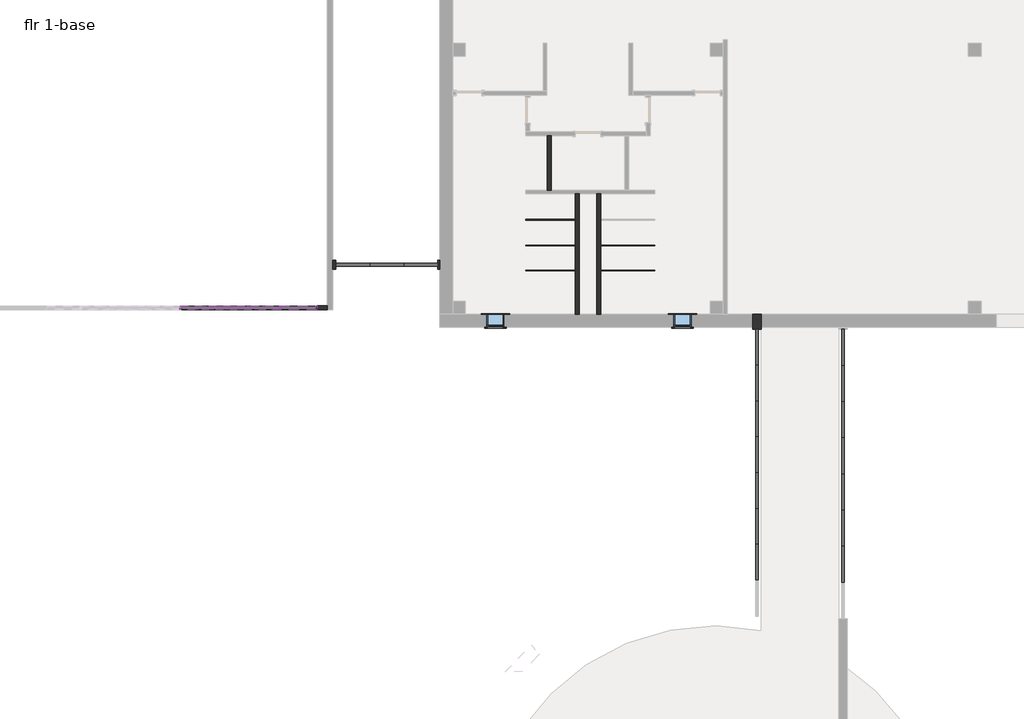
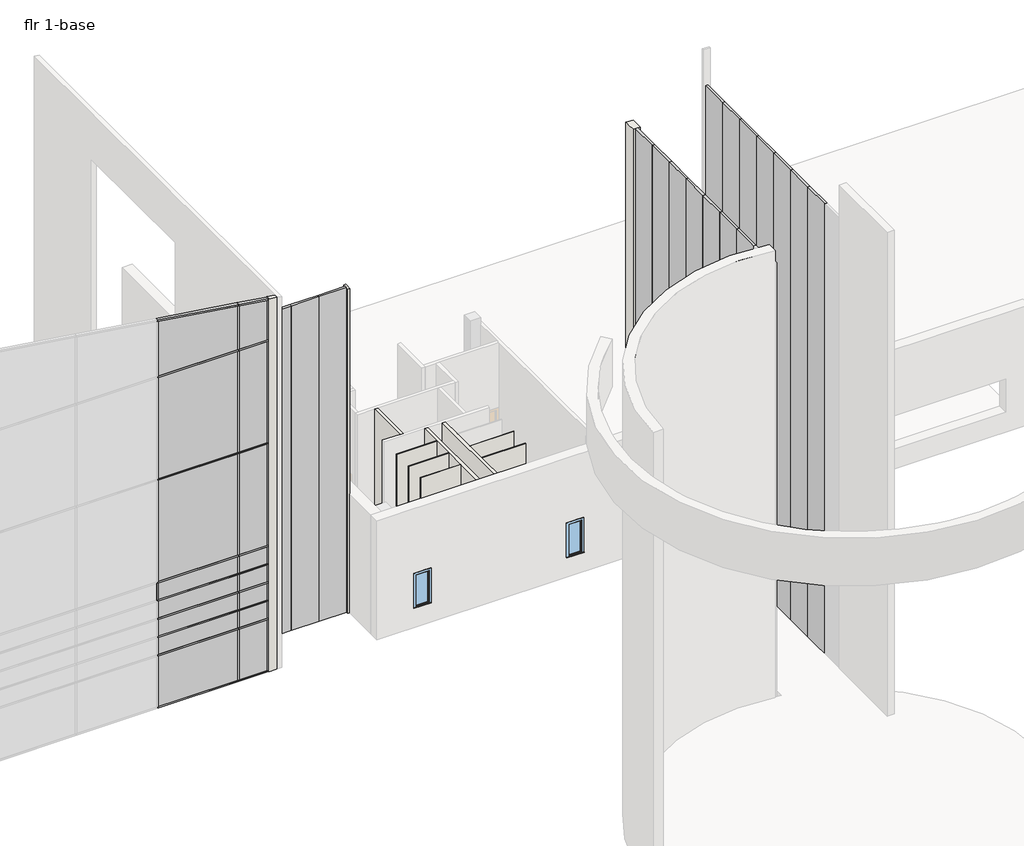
# One storey, part 3 of 5: 35 members, 33 plates, 12 walls, 2 windows.
"""IFC4 building model written with IfcOpenShell, lengths in millimetres."""

from ifc_helpers import new_model, si_unit, frame, origin, origin_with_axes, place, context, project, spatial, polyline, outline, extrude, faceted_brep, transform, mapped, element, save
from components import system_panel_system_panel_63a5b8b7, system_panel_system_panel_2d25a60f, system_panel_system_panel_03cabf1d, system_panel_system_panel_86e66b7d, system_panel_system_panel_499e53ce, system_panel_system_panel_bb7de7ef, system_panel_system_panel_081f42b0, system_panel_system_panel_b373457a, system_panel_system_panel_dbd73a4f, system_panel_system_panel_1b25f975, system_panel_system_panel_68fa3782, fixed_2_x5_0ba76afd

model = new_model("IFC4")

# Units and contexts
model_context = context("Model", 3, world=origin())
ifc_project = project(units=[si_unit("LENGTHUNIT", "METRE", prefix="MILLI")], contexts=[model_context])

# Site, building, storey
site = spatial("IfcSite", under=ifc_project)
building = spatial("IfcBuilding", under=site)
storey = spatial("IfcBuildingStorey", under=building, Name="flr 1-base", Elevation=0.0)

# Members
placement = place(None, origin())
element("IfcMember", 1, ObjectType="Rectangular Mullion : 2.5\" x 5\" rectangular", at=placement, inside=storey, context=model_context, shape_type="SweptSolid", body=[
    extrude(outline(polyline([(-120352.490902, 25250.9071029), (-120415.990902, 25250.9071029), (-120415.990902, 25377.9071029), (-120352.490902, 25377.9071029), (-120352.490902, 25250.9071029)])), frame((0.0, 0.0, -241.3), z_axis=(0.0, 0.0, 1.0), x_axis=(1.0, 0.0, 0.0)), (0.0, 0.0, 1.0), 2343.15),
])
element("IfcMember", 2, ObjectType="Rectangular Mullion : 2.5\" x 5\" rectangular", at=placement, inside=storey, context=model_context, shape_type="SweptSolid", body=[
    extrude(outline(polyline([(16798.9134278, -120415.990902), (16853.7871072, -120352.490902), (17046.0825681, -121664.8602916), (16983.2534474, -121674.0663542), (16798.9134278, -120415.990902)])), frame((0.0, 25250.9071029, 0.0), z_axis=(0.0, 1.0, 0.0), x_axis=(0.0, 0.0, 1.0)), (0.0, 0.0, 1.0), 127.0),
])
element("IfcMember", 3, ObjectType="Rectangular Mullion : 2.5\" x 5\" rectangular", at=placement, inside=storey, context=model_context, shape_type="SweptSolid", body=[
    extrude(outline(polyline([(-121633.1102916, 25250.9071029), (-121696.6102916, 25250.9071029), (-121696.6102916, 25377.9071029), (-121633.1102916, 25377.9071029), (-121633.1102916, 25250.9071029)])), frame((0.0, 0.0, -241.3), z_axis=(0.0, 0.0, 1.0), x_axis=(1.0, 0.0, 0.0)), (0.0, 0.0, 1.0), 2343.15),
])
element("IfcMember", 4, ObjectType="Rectangular Mullion : 2.5\" x 5\" rectangular", at=placement, inside=storey, context=model_context, shape_type="SweptSolid", body=[
    extrude(outline(polyline([(-120352.490902, 25377.9071029), (-120352.490902, 25250.9071029), (-121664.8602916, 25250.9071029), (-121664.8602916, 25377.9071029), (-120352.490902, 25377.9071029)])), frame((0.0, 0.0, 2101.85), z_axis=(0.0, 0.0, 1.0), x_axis=(1.0, 0.0, 0.0)), (0.0, 0.0, 1.0), 63.5),
])
element("IfcMember", 5, ObjectType="Rectangular Mullion : 2.5\" x 5\" rectangular", at=placement, inside=storey, context=model_context, shape_type="SweptSolid", body=[
    extrude(outline(polyline([(-121664.8602916, 25377.9071029), (-121664.8602916, 25250.9071029), (-125199.6755968, 25250.9071029), (-125199.6755968, 25377.9071029), (-121664.8602916, 25377.9071029)])), frame((0.0, 0.0, 2101.85), z_axis=(0.0, 0.0, 1.0), x_axis=(1.0, 0.0, 0.0)), (0.0, 0.0, 1.0), 63.5),
])
element("IfcMember", 6, ObjectType="Rectangular Mullion : 2.5\" x 5\" rectangular", at=placement, inside=storey, context=model_context, shape_type="SweptSolid", body=[
    extrude(outline(polyline([(-120352.490902, 25377.9071029), (-120352.490902, 25250.9071029), (-121664.8602916, 25250.9071029), (-121664.8602916, 25377.9071029), (-120352.490902, 25377.9071029)])), frame((0.0, 0.0, 5454.65), z_axis=(0.0, 0.0, 1.0), x_axis=(1.0, 0.0, 0.0)), (0.0, 0.0, 1.0), 63.5),
])
element("IfcMember", 7, ObjectType="Rectangular Mullion : 2.5\" x 5\" rectangular", at=placement, inside=storey, context=model_context, shape_type="SweptSolid", body=[
    extrude(outline(polyline([(-121664.8602916, 25377.9071029), (-121664.8602916, 25250.9071029), (-125199.6755968, 25250.9071029), (-125199.6755968, 25377.9071029), (-121664.8602916, 25377.9071029)])), frame((0.0, 0.0, 5454.65), z_axis=(0.0, 0.0, 1.0), x_axis=(1.0, 0.0, 0.0)), (0.0, 0.0, 1.0), 63.5),
])
element("IfcMember", 8, ObjectType="Rectangular Mullion : 2.5\" x 5\" rectangular", at=placement, inside=storey, context=model_context, shape_type="SweptSolid", body=[
    extrude(outline(polyline([(-120352.490902, 25377.9071029), (-120352.490902, 25250.9071029), (-121664.8602916, 25250.9071029), (-121664.8602916, 25377.9071029), (-120352.490902, 25377.9071029)])), frame((0.0, 0.0, 10179.05), z_axis=(0.0, 0.0, 1.0), x_axis=(1.0, 0.0, 0.0)), (0.0, 0.0, 1.0), 63.5),
])
element("IfcMember", 9, ObjectType="Rectangular Mullion : 2.5\" x 5\" rectangular", at=placement, inside=storey, context=model_context, shape_type="SweptSolid", body=[
    extrude(outline(polyline([(-121664.8602916, 25377.9071029), (-121664.8602916, 25250.9071029), (-125199.6755968, 25250.9071029), (-125199.6755968, 25377.9071029), (-121664.8602916, 25377.9071029)])), frame((0.0, 0.0, 10179.05), z_axis=(0.0, 0.0, 1.0), x_axis=(1.0, 0.0, 0.0)), (0.0, 0.0, 1.0), 63.5),
])
element("IfcMember", 10, ObjectType="Rectangular Mullion : 2.5\" x 5\" rectangular", at=placement, inside=storey, context=model_context, shape_type="SweptSolid", body=[
    extrude(outline(polyline([(-120352.490902, 25377.9071029), (-120352.490902, 25250.9071029), (-121664.8602916, 25250.9071029), (-121664.8602916, 25377.9071029), (-120352.490902, 25377.9071029)])), frame((0.0, 0.0, 14903.45), z_axis=(0.0, 0.0, 1.0), x_axis=(1.0, 0.0, 0.0)), (0.0, 0.0, 1.0), 63.5),
])
element("IfcMember", 11, ObjectType="Rectangular Mullion : 2.5\" x 5\" rectangular", at=placement, inside=storey, context=model_context, shape_type="SweptSolid", body=[
    extrude(outline(polyline([(-121664.8602916, 25377.9071029), (-121664.8602916, 25250.9071029), (-125199.6755968, 25250.9071029), (-125199.6755968, 25377.9071029), (-121664.8602916, 25377.9071029)])), frame((0.0, 0.0, 14903.45), z_axis=(0.0, 0.0, 1.0), x_axis=(1.0, 0.0, 0.0)), (0.0, 0.0, 1.0), 63.5),
])
element("IfcMember", 12, ObjectType="Rectangular Mullion : 2.5\" x 5\" rectangular", at=placement, inside=storey, context=model_context, shape_type="SweptSolid", body=[
    extrude(outline(polyline([(-120352.490902, 25377.9071029), (-120352.490902, 25250.9071029), (-121664.8602916, 25250.9071029), (-121664.8602916, 25377.9071029), (-120352.490902, 25377.9071029)])), frame((0.0, 0.0, 3778.25), z_axis=(0.0, 0.0, 1.0), x_axis=(1.0, 0.0, 0.0)), (0.0, 0.0, 1.0), 63.5),
])
element("IfcMember", 13, ObjectType="Rectangular Mullion : 2.5\" x 5\" rectangular", at=placement, inside=storey, context=model_context, shape_type="SweptSolid", body=[
    extrude(outline(polyline([(-121664.8602916, 25377.9071029), (-121664.8602916, 25250.9071029), (-125199.6755968, 25250.9071029), (-125199.6755968, 25377.9071029), (-121664.8602916, 25377.9071029)])), frame((0.0, 0.0, 3778.25), z_axis=(0.0, 0.0, 1.0), x_axis=(1.0, 0.0, 0.0)), (0.0, 0.0, 1.0), 63.5),
])
element("IfcMember", 14, ObjectType="Rectangular Mullion : 2.5\" x 5\" rectangular", at=placement, inside=storey, context=model_context, shape_type="SweptSolid", body=[
    extrude(outline(polyline([(-120352.490902, 25377.9071029), (-120352.490902, 25250.9071029), (-121664.8602916, 25250.9071029), (-121664.8602916, 25377.9071029), (-120352.490902, 25377.9071029)])), frame((0.0, 0.0, 2940.05), z_axis=(0.0, 0.0, 1.0), x_axis=(1.0, 0.0, 0.0)), (0.0, 0.0, 1.0), 63.5),
])
element("IfcMember", 15, ObjectType="Rectangular Mullion : 2.5\" x 5\" rectangular", at=placement, inside=storey, context=model_context, shape_type="SweptSolid", body=[
    extrude(outline(polyline([(-121664.8602916, 25377.9071029), (-121664.8602916, 25250.9071029), (-125199.6755968, 25250.9071029), (-125199.6755968, 25377.9071029), (-121664.8602916, 25377.9071029)])), frame((0.0, 0.0, 2940.05), z_axis=(0.0, 0.0, 1.0), x_axis=(1.0, 0.0, 0.0)), (0.0, 0.0, 1.0), 63.5),
])
element("IfcMember", 16, ObjectType="Rectangular Mullion : 2.5\" x 5\" rectangular", at=placement, inside=storey, context=model_context, shape_type="SweptSolid", body=[
    extrude(outline(polyline([(-120352.490902, 25377.9071029), (-120352.490902, 25250.9071029), (-121664.8602916, 25250.9071029), (-121664.8602916, 25377.9071029), (-120352.490902, 25377.9071029)])), frame((0.0, 0.0, 4616.45), z_axis=(0.0, 0.0, 1.0), x_axis=(1.0, 0.0, 0.0)), (0.0, 0.0, 1.0), 63.5),
])
element("IfcMember", 17, ObjectType="Rectangular Mullion : 2.5\" x 5\" rectangular", at=placement, inside=storey, context=model_context, shape_type="SweptSolid", body=[
    extrude(outline(polyline([(-121664.8602916, 25377.9071029), (-121664.8602916, 25250.9071029), (-125199.6755968, 25250.9071029), (-125199.6755968, 25377.9071029), (-121664.8602916, 25377.9071029)])), frame((0.0, 0.0, 4616.45), z_axis=(0.0, 0.0, 1.0), x_axis=(1.0, 0.0, 0.0)), (0.0, 0.0, 1.0), 63.5),
])
element("IfcMember", 18, ObjectType="Rectangular Mullion : 2.5\" x 5\" rectangular", at=placement, inside=storey, context=model_context, shape_type="SweptSolid", body=[
    extrude(outline(polyline([(-121664.8602916, 25250.9071029), (-121664.8602916, 25377.9071029), (-120352.490902, 25377.9071029), (-120352.490902, 25250.9071029), (-121664.8602916, 25250.9071029)])), frame((0.0, 0.0, -304.8), z_axis=(0.0, 0.0, 1.0), x_axis=(1.0, 0.0, 0.0)), (0.0, 0.0, 1.0), 63.5),
])
element("IfcMember", 19, ObjectType="Rectangular Mullion : 2.5\" x 5\" rectangular", at=placement, inside=storey, context=model_context, shape_type="SweptSolid", body=[
    extrude(outline(polyline([(-125199.6755968, 25250.9071029), (-125199.6755968, 25377.9071029), (-121664.8602916, 25377.9071029), (-121664.8602916, 25250.9071029), (-125199.6755968, 25250.9071029)])), frame((0.0, 0.0, -304.8), z_axis=(0.0, 0.0, 1.0), x_axis=(1.0, 0.0, 0.0)), (0.0, 0.0, 1.0), 63.5),
])
element("IfcMember", 20, ObjectType="Rectangular Mullion : 2.5\" x 5\" rectangular", at=placement, inside=storey, context=model_context, shape_type="SweptSolid", body=[
    extrude(outline(polyline([(-120352.490902, 25250.9071029), (-120415.990902, 25250.9071029), (-120415.990902, 25377.9071029), (-120352.490902, 25377.9071029), (-120352.490902, 25250.9071029)])), frame((0.0, 0.0, 2165.35), z_axis=(0.0, 0.0, 1.0), x_axis=(1.0, 0.0, 0.0)), (0.0, 0.0, 1.0), 774.7),
])
element("IfcMember", 21, ObjectType="Rectangular Mullion : 2.5\" x 5\" rectangular", at=placement, inside=storey, context=model_context, shape_type="SweptSolid", body=[
    extrude(outline(polyline([(-120352.490902, 25250.9071029), (-120415.990902, 25250.9071029), (-120415.990902, 25377.9071029), (-120352.490902, 25377.9071029), (-120352.490902, 25250.9071029)])), frame((0.0, 0.0, 5518.15), z_axis=(0.0, 0.0, 1.0), x_axis=(1.0, 0.0, 0.0)), (0.0, 0.0, 1.0), 4660.9),
])
element("IfcMember", 22, ObjectType="Rectangular Mullion : 2.5\" x 5\" rectangular", at=placement, inside=storey, context=model_context, shape_type="SweptSolid", body=[
    extrude(outline(polyline([(-120352.490902, 25250.9071029), (-120415.990902, 25250.9071029), (-120415.990902, 25377.9071029), (-120352.490902, 25377.9071029), (-120352.490902, 25250.9071029)])), frame((0.0, 0.0, 10242.55), z_axis=(0.0, 0.0, 1.0), x_axis=(1.0, 0.0, 0.0)), (0.0, 0.0, 1.0), 4660.9),
])
element("IfcMember", 23, ObjectType="Rectangular Mullion : 2.5\" x 5\" rectangular", at=placement, inside=storey, context=model_context, shape_type="SweptSolid", body=[
    extrude(outline(polyline([(14966.95, -120415.990902), (14966.95, -120352.490902), (16853.7871072, -120352.490902), (16798.9134278, -120415.990902), (14966.95, -120415.990902)])), frame((0.0, 25250.9071029, 0.0), z_axis=(0.0, 1.0, 0.0), x_axis=(0.0, 0.0, 1.0)), (0.0, 0.0, 1.0), 127.0),
])
element("IfcMember", 24, ObjectType="Rectangular Mullion : 2.5\" x 5\" rectangular", at=placement, inside=storey, context=model_context, shape_type="SweptSolid", body=[
    extrude(outline(polyline([(-120352.490902, 25250.9071029), (-120415.990902, 25250.9071029), (-120415.990902, 25377.9071029), (-120352.490902, 25377.9071029), (-120352.490902, 25250.9071029)])), frame((0.0, 0.0, 3841.75), z_axis=(0.0, 0.0, 1.0), x_axis=(1.0, 0.0, 0.0)), (0.0, 0.0, 1.0), 774.7),
])
element("IfcMember", 25, ObjectType="Rectangular Mullion : 2.5\" x 5\" rectangular", at=placement, inside=storey, context=model_context, shape_type="SweptSolid", body=[
    extrude(outline(polyline([(-120352.490902, 25250.9071029), (-120415.990902, 25250.9071029), (-120415.990902, 25377.9071029), (-120352.490902, 25377.9071029), (-120352.490902, 25250.9071029)])), frame((0.0, 0.0, 3003.55), z_axis=(0.0, 0.0, 1.0), x_axis=(1.0, 0.0, 0.0)), (0.0, 0.0, 1.0), 774.7),
])
element("IfcMember", 26, ObjectType="Rectangular Mullion : 2.5\" x 5\" rectangular", at=placement, inside=storey, context=model_context, shape_type="SweptSolid", body=[
    extrude(outline(polyline([(-120352.490902, 25250.9071029), (-120415.990902, 25250.9071029), (-120415.990902, 25377.9071029), (-120352.490902, 25377.9071029), (-120352.490902, 25250.9071029)])), frame((0.0, 0.0, 4679.95), z_axis=(0.0, 0.0, 1.0), x_axis=(1.0, 0.0, 0.0)), (0.0, 0.0, 1.0), 774.7),
])
element("IfcMember", 27, ObjectType="Rectangular Mullion : 2.5\" x 5\" rectangular", at=placement, inside=storey, context=model_context, shape_type="SweptSolid", body=[
    extrude(outline(polyline([(0.0, -127.0), (0.0, 0.0), (3572.5594958, 0.0), (3572.5594958, -127.0), (0.0, -127.0)])), frame((-121674.0663542, 25250.9071029, 16983.2534474), z_axis=(0.1449773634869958, 0.0, 0.989434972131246), x_axis=(-0.989434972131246, 0.0, 0.1449773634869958)), (0.0, 0.0, 1.0), 63.5),
])
element("IfcMember", 28, ObjectType="Rectangular Mullion : 2.5\" x 5\" rectangular", at=placement, inside=storey, context=model_context, shape_type="SweptSolid", body=[
    extrude(outline(polyline([(-121633.1102916, 25250.9071029), (-121696.6102916, 25250.9071029), (-121696.6102916, 25377.9071029), (-121633.1102916, 25377.9071029), (-121633.1102916, 25250.9071029)])), frame((0.0, 0.0, 2165.35), z_axis=(0.0, 0.0, 1.0), x_axis=(1.0, 0.0, 0.0)), (0.0, 0.0, 1.0), 774.7),
])
element("IfcMember", 29, ObjectType="Rectangular Mullion : 2.5\" x 5\" rectangular", at=placement, inside=storey, context=model_context, shape_type="SweptSolid", body=[
    extrude(outline(polyline([(-121633.1102916, 25250.9071029), (-121696.6102916, 25250.9071029), (-121696.6102916, 25377.9071029), (-121633.1102916, 25377.9071029), (-121633.1102916, 25250.9071029)])), frame((0.0, 0.0, 5518.15), z_axis=(0.0, 0.0, 1.0), x_axis=(1.0, 0.0, 0.0)), (0.0, 0.0, 1.0), 4660.9),
])
element("IfcMember", 30, ObjectType="Rectangular Mullion : 2.5\" x 5\" rectangular", at=placement, inside=storey, context=model_context, shape_type="SweptSolid", body=[
    extrude(outline(polyline([(-121633.1102916, 25250.9071029), (-121696.6102916, 25250.9071029), (-121696.6102916, 25377.9071029), (-121633.1102916, 25377.9071029), (-121633.1102916, 25250.9071029)])), frame((0.0, 0.0, 10242.55), z_axis=(0.0, 0.0, 1.0), x_axis=(1.0, 0.0, 0.0)), (0.0, 0.0, 1.0), 4660.9),
])
element("IfcMember", 31, ObjectType="Rectangular Mullion : 2.5\" x 5\" rectangular", at=placement, inside=storey, context=model_context, shape_type="SweptSolid", body=[
    extrude(outline(polyline([(14966.95, -121696.6102916), (14966.95, -121633.1102916), (16977.2523436, -121633.1102916), (16983.2534474, -121674.0663542), (16986.556707, -121696.6102916), (14966.95, -121696.6102916)])), frame((0.0, 25250.9071029, 0.0), z_axis=(0.0, 1.0, 0.0), x_axis=(0.0, 0.0, 1.0)), (0.0, 0.0, 1.0), 127.0),
])
element("IfcMember", 32, ObjectType="Rectangular Mullion : 2.5\" x 5\" rectangular", at=placement, inside=storey, context=model_context, shape_type="SweptSolid", body=[
    extrude(outline(polyline([(-121633.1102916, 25250.9071029), (-121696.6102916, 25250.9071029), (-121696.6102916, 25377.9071029), (-121633.1102916, 25377.9071029), (-121633.1102916, 25250.9071029)])), frame((0.0, 0.0, 3841.75), z_axis=(0.0, 0.0, 1.0), x_axis=(1.0, 0.0, 0.0)), (0.0, 0.0, 1.0), 774.7),
])
element("IfcMember", 33, ObjectType="Rectangular Mullion : 2.5\" x 5\" rectangular", at=placement, inside=storey, context=model_context, shape_type="SweptSolid", body=[
    extrude(outline(polyline([(-121633.1102916, 25250.9071029), (-121696.6102916, 25250.9071029), (-121696.6102916, 25377.9071029), (-121633.1102916, 25377.9071029), (-121633.1102916, 25250.9071029)])), frame((0.0, 0.0, 3003.55), z_axis=(0.0, 0.0, 1.0), x_axis=(1.0, 0.0, 0.0)), (0.0, 0.0, 1.0), 774.7),
])
element("IfcMember", 34, ObjectType="Rectangular Mullion : 2.5\" x 5\" rectangular", at=placement, inside=storey, context=model_context, shape_type="SweptSolid", body=[
    extrude(outline(polyline([(-121633.1102916, 25250.9071029), (-121696.6102916, 25250.9071029), (-121696.6102916, 25377.9071029), (-121633.1102916, 25377.9071029), (-121633.1102916, 25250.9071029)])), frame((0.0, 0.0, 4679.95), z_axis=(0.0, 0.0, 1.0), x_axis=(1.0, 0.0, 0.0)), (0.0, 0.0, 1.0), 774.7),
])
element("IfcMember", 35, ObjectType="Rectangular Mullion : 2.5\" x 5\" rectangular", at=placement, inside=storey, context=model_context, shape_type="SweptSolid", body=[
    extrude(outline(polyline([(-125167.9255968, 25250.9071029), (-125231.4255968, 25250.9071029), (-125231.4255968, 25377.9071029), (-125167.9255968, 25377.9071029), (-125167.9255968, 25250.9071029)])), frame((0.0, 0.0, 4679.95), z_axis=(0.0, 0.0, 1.0), x_axis=(1.0, 0.0, 0.0)), (0.0, 0.0, 1.0), 774.7),
])

# Plates
system_panel_system_panel_shape = system_panel_system_panel_63a5b8b7(model_context)
element("IfcPlate", 36, ObjectType="System Panel : System Panel", at=placement, inside=storey, context=model_context, shape_type="MappedRepresentation", body=[
    mapped(system_panel_system_panel_shape, transform((-104757.2324925, 20103.9107299, -304.8), x_axis=(0.0, 1.0, 0.0), y_axis=(-1.0, 0.0, 0.0), z_axis=(0.0, 0.0, 1.0))),
])
element("IfcPlate", 37, ObjectType="System Panel : System Panel", at=placement, inside=storey, context=model_context, shape_type="MappedRepresentation", body=[
    mapped(system_panel_system_panel_shape, transform((-104757.2324925, 22645.9086573, -304.8), x_axis=(0.0, 1.0, 0.0), y_axis=(-1.0, 0.0, 0.0), z_axis=(0.0, 0.0, 1.0))),
])
element("IfcPlate", 38, ObjectType="System Panel : System Panel", at=placement, inside=storey, context=model_context, shape_type="MappedRepresentation", body=[
    mapped(system_panel_system_panel_shape, transform((-104757.2324925, 17561.9128024, -304.8), x_axis=(0.0, 1.0, 0.0), y_axis=(-1.0, 0.0, 0.0), z_axis=(0.0, 0.0, 1.0))),
])
element("IfcPlate", 39, ObjectType="System Panel : System Panel", at=placement, inside=storey, context=model_context, shape_type="MappedRepresentation", body=[
    mapped(system_panel_system_panel_shape, transform((-104757.2324925, 18832.9117662, -304.8), x_axis=(0.0, 1.0, 0.0), y_axis=(-1.0, 0.0, 0.0), z_axis=(0.0, 0.0, 1.0))),
])
element("IfcPlate", 40, ObjectType="System Panel : System Panel", at=placement, inside=storey, context=model_context, shape_type="MappedRepresentation", body=[
    mapped(system_panel_system_panel_shape, transform((-104757.2324925, 16290.9138387, -304.8), x_axis=(0.0, 1.0, 0.0), y_axis=(-1.0, 0.0, 0.0), z_axis=(0.0, 0.0, 1.0))),
])
element("IfcPlate", 41, ObjectType="System Panel : System Panel", at=placement, inside=storey, context=model_context, shape_type="MappedRepresentation", body=[
    mapped(system_panel_system_panel_shape, transform((-104757.2324925, 21374.9096936, -304.8), x_axis=(0.0, 1.0, 0.0), y_axis=(-1.0, 0.0, 0.0), z_axis=(0.0, 0.0, 1.0))),
])
element("IfcPlate", 42, ObjectType="System Panel : System Panel", at=placement, inside=storey, context=model_context, shape_type="MappedRepresentation", body=[
    mapped(system_panel_system_panel_shape, transform((-104757.2324925, 23916.9076211, -304.8), x_axis=(0.0, 1.0, 0.0), y_axis=(-1.0, 0.0, 0.0), z_axis=(0.0, 0.0, 1.0))),
])
system_panel_system_panel_2_shape = system_panel_system_panel_2d25a60f(model_context)
element("IfcPlate", 43, ObjectType="System Panel : System Panel", at=placement, inside=storey, context=model_context, shape_type="MappedRepresentation", body=[
    mapped(system_panel_system_panel_2_shape, transform((-101709.2324925, 20062.9571029, -304.8), x_axis=(0.0, 1.0, 0.0), y_axis=(-1.0, 0.0, 0.0), z_axis=(0.0, 0.0, 1.0))),
])
element("IfcPlate", 44, ObjectType="System Panel : System Panel", at=placement, inside=storey, context=model_context, shape_type="MappedRepresentation", body=[
    mapped(system_panel_system_panel_2_shape, transform((-101709.2324925, 17497.5571029, -304.8), x_axis=(0.0, 1.0, 0.0), y_axis=(-1.0, 0.0, 0.0), z_axis=(0.0, 0.0, 1.0))),
])
element("IfcPlate", 45, ObjectType="System Panel : System Panel", at=placement, inside=storey, context=model_context, shape_type="MappedRepresentation", body=[
    mapped(system_panel_system_panel_2_shape, transform((-101709.2324925, 22628.3571029, -304.8), x_axis=(0.0, 1.0, 0.0), y_axis=(-1.0, 0.0, 0.0), z_axis=(0.0, 0.0, 1.0))),
])
element("IfcPlate", 46, ObjectType="System Panel : System Panel", at=placement, inside=storey, context=model_context, shape_type="MappedRepresentation", body=[
    mapped(system_panel_system_panel_2_shape, transform((-101709.2324925, 16214.8571029, -304.8), x_axis=(0.0, 1.0, 0.0), y_axis=(-1.0, 0.0, 0.0), z_axis=(0.0, 0.0, 1.0))),
])
element("IfcPlate", 47, ObjectType="System Panel : System Panel", at=placement, inside=storey, context=model_context, shape_type="MappedRepresentation", body=[
    mapped(system_panel_system_panel_2_shape, transform((-101709.2324925, 18780.2571029, -304.8), x_axis=(0.0, 1.0, 0.0), y_axis=(-1.0, 0.0, 0.0), z_axis=(0.0, 0.0, 1.0))),
])
element("IfcPlate", 48, ObjectType="System Panel : System Panel", at=placement, inside=storey, context=model_context, shape_type="MappedRepresentation", body=[
    mapped(system_panel_system_panel_2_shape, transform((-101709.2324925, 21345.6571029, -304.8), x_axis=(0.0, 1.0, 0.0), y_axis=(-1.0, 0.0, 0.0), z_axis=(0.0, 0.0, 1.0))),
])
element("IfcPlate", 49, ObjectType="System Panel : System Panel", at=placement, inside=storey, context=model_context, shape_type="MappedRepresentation", body=[
    mapped(system_panel_system_panel_2_shape, transform((-101709.2324925, 23911.0571029, -304.8), x_axis=(0.0, 1.0, 0.0), y_axis=(-1.0, 0.0, 0.0), z_axis=(0.0, 0.0, 1.0))),
])
system_panel_system_panel_3_shape = system_panel_system_panel_03cabf1d(model_context)
element("IfcPlate", 50, ObjectType="System Panel : System Panel", at=placement, inside=storey, context=model_context, shape_type="MappedRepresentation", body=[
    mapped(system_panel_system_panel_3_shape, transform((-116686.7404178, 26838.4071029, 0.0), x_axis=(-1.0, 0.0, 0.0), y_axis=(0.0, -1.0, 0.0), z_axis=(0.0, 0.0, 1.0))),
])
element("IfcPlate", 51, ObjectType="System Panel : System Panel", at=placement, inside=storey, context=model_context, shape_type="MappedRepresentation", body=[
    mapped(system_panel_system_panel_3_shape, transform((-119091.0208052, 26838.4071029, 0.0), x_axis=(-1.0, 0.0, 0.0), y_axis=(0.0, -1.0, 0.0), z_axis=(0.0, 0.0, 1.0))),
])
element("IfcPlate", 52, ObjectType="System Panel : System Panel", at=placement, inside=storey, context=model_context, shape_type="MappedRepresentation", body=[
    mapped(system_panel_system_panel_3_shape, transform((-117888.8806115, 26838.4071029, 0.0), x_axis=(-1.0, 0.0, 0.0), y_axis=(0.0, -1.0, 0.0), z_axis=(0.0, 0.0, 1.0))),
])
system_panel_system_panel_4_shape = system_panel_system_panel_86e66b7d(model_context)
element("IfcPlate", 53, ObjectType="System Panel : System Panel", at=placement, inside=storey, context=model_context, shape_type="MappedRepresentation", body=[
    mapped(system_panel_system_panel_4_shape, transform((-123432.2679442, 25314.4071029, -241.3), x_axis=(1.0, 0.0, 0.0), y_axis=(0.0, 1.0, 0.0), z_axis=(0.0, 0.0, 1.0))),
])
system_panel_system_panel_5_shape = system_panel_system_panel_499e53ce(model_context)
element("IfcPlate", 54, ObjectType="System Panel : System Panel", at=placement, inside=storey, context=model_context, shape_type="MappedRepresentation", body=[
    mapped(system_panel_system_panel_5_shape, transform((-121024.5505968, 25314.4071029, -241.3), x_axis=(1.0, 0.0, 0.0), y_axis=(0.0, 1.0, 0.0), z_axis=(0.0, 0.0, 1.0))),
])
system_panel_system_panel_6_shape = system_panel_system_panel_bb7de7ef(model_context)
element("IfcPlate", 55, ObjectType="System Panel : System Panel", at=placement, inside=storey, context=model_context, shape_type="MappedRepresentation", body=[
    mapped(system_panel_system_panel_6_shape, transform((-123432.2679442, 25314.4071029, 2165.35), x_axis=(1.0, 0.0, 0.0), y_axis=(0.0, 1.0, 0.0), z_axis=(0.0, 0.0, 1.0))),
])
element("IfcPlate", 56, ObjectType="System Panel : System Panel", at=placement, inside=storey, context=model_context, shape_type="MappedRepresentation", body=[
    mapped(system_panel_system_panel_6_shape, transform((-123432.2679442, 25314.4071029, 3841.75), x_axis=(1.0, 0.0, 0.0), y_axis=(0.0, 1.0, 0.0), z_axis=(0.0, 0.0, 1.0))),
])
element("IfcPlate", 57, ObjectType="System Panel : System Panel", at=placement, inside=storey, context=model_context, shape_type="MappedRepresentation", body=[
    mapped(system_panel_system_panel_6_shape, transform((-123432.2679442, 25314.4071029, 3003.55), x_axis=(1.0, 0.0, 0.0), y_axis=(0.0, 1.0, 0.0), z_axis=(0.0, 0.0, 1.0))),
])
element("IfcPlate", 58, ObjectType="System Panel : System Panel", at=placement, inside=storey, context=model_context, shape_type="MappedRepresentation", body=[
    mapped(system_panel_system_panel_6_shape, transform((-123432.2679442, 25314.4071029, 4679.95), x_axis=(1.0, 0.0, 0.0), y_axis=(0.0, 1.0, 0.0), z_axis=(0.0, 0.0, 1.0))),
])
system_panel_system_panel_7_shape = system_panel_system_panel_081f42b0(model_context)
element("IfcPlate", 59, ObjectType="System Panel : System Panel", at=placement, inside=storey, context=model_context, shape_type="MappedRepresentation", body=[
    mapped(system_panel_system_panel_7_shape, transform((-121024.5505968, 25314.4071029, 2165.35), x_axis=(1.0, 0.0, 0.0), y_axis=(0.0, 1.0, 0.0), z_axis=(0.0, 0.0, 1.0))),
])
element("IfcPlate", 60, ObjectType="System Panel : System Panel", at=placement, inside=storey, context=model_context, shape_type="MappedRepresentation", body=[
    mapped(system_panel_system_panel_7_shape, transform((-121024.5505968, 25314.4071029, 3841.75), x_axis=(1.0, 0.0, 0.0), y_axis=(0.0, 1.0, 0.0), z_axis=(0.0, 0.0, 1.0))),
])
element("IfcPlate", 61, ObjectType="System Panel : System Panel", at=placement, inside=storey, context=model_context, shape_type="MappedRepresentation", body=[
    mapped(system_panel_system_panel_7_shape, transform((-121024.5505968, 25314.4071029, 3003.55), x_axis=(1.0, 0.0, 0.0), y_axis=(0.0, 1.0, 0.0), z_axis=(0.0, 0.0, 1.0))),
])
element("IfcPlate", 62, ObjectType="System Panel : System Panel", at=placement, inside=storey, context=model_context, shape_type="MappedRepresentation", body=[
    mapped(system_panel_system_panel_7_shape, transform((-121024.5505968, 25314.4071029, 4679.95), x_axis=(1.0, 0.0, 0.0), y_axis=(0.0, 1.0, 0.0), z_axis=(0.0, 0.0, 1.0))),
])
system_panel_system_panel_8_shape = system_panel_system_panel_b373457a(model_context)
element("IfcPlate", 63, ObjectType="System Panel : System Panel", at=placement, inside=storey, context=model_context, shape_type="MappedRepresentation", body=[
    mapped(system_panel_system_panel_8_shape, transform((-123432.2679442, 25314.4071029, 5518.15), x_axis=(1.0, 0.0, 0.0), y_axis=(0.0, 1.0, 0.0), z_axis=(0.0, 0.0, 1.0))),
])
element("IfcPlate", 64, ObjectType="System Panel : System Panel", at=placement, inside=storey, context=model_context, shape_type="MappedRepresentation", body=[
    mapped(system_panel_system_panel_8_shape, transform((-123432.2679442, 25314.4071029, 10242.55), x_axis=(1.0, 0.0, 0.0), y_axis=(0.0, 1.0, 0.0), z_axis=(0.0, 0.0, 1.0))),
])
system_panel_system_panel_9_shape = system_panel_system_panel_dbd73a4f(model_context)
element("IfcPlate", 65, ObjectType="System Panel : System Panel", at=placement, inside=storey, context=model_context, shape_type="MappedRepresentation", body=[
    mapped(system_panel_system_panel_9_shape, transform((-121024.5505968, 25314.4071029, 5518.15), x_axis=(1.0, 0.0, 0.0), y_axis=(0.0, 1.0, 0.0), z_axis=(0.0, 0.0, 1.0))),
])
element("IfcPlate", 66, ObjectType="System Panel : System Panel", at=placement, inside=storey, context=model_context, shape_type="MappedRepresentation", body=[
    mapped(system_panel_system_panel_9_shape, transform((-121024.5505968, 25314.4071029, 10242.55), x_axis=(1.0, 0.0, 0.0), y_axis=(0.0, 1.0, 0.0), z_axis=(0.0, 0.0, 1.0))),
])
system_panel_system_panel_10_shape = system_panel_system_panel_1b25f975(model_context)
element("IfcPlate", 67, ObjectType="System Panel : System Panel", at=placement, inside=storey, context=model_context, shape_type="MappedRepresentation", body=[
    mapped(system_panel_system_panel_10_shape, transform((-123432.2679442, 25314.4071029, 14966.95), x_axis=(1.0, 0.0, 0.0), y_axis=(0.0, 1.0, 0.0), z_axis=(0.0, 0.0, 1.0))),
])
system_panel_system_panel_11_shape = system_panel_system_panel_68fa3782(model_context)
element("IfcPlate", 68, ObjectType="System Panel : System Panel", at=placement, inside=storey, context=model_context, shape_type="MappedRepresentation", body=[
    mapped(system_panel_system_panel_11_shape, transform((-121024.5505968, 25314.4071029, 14966.95), x_axis=(1.0, 0.0, 0.0), y_axis=(0.0, 1.0, 0.0), z_axis=(0.0, 0.0, 1.0))),
])

# Walls
element("IfcWall", 69, ObjectType="Generic - 6\"", at=placement, inside=storey, context=model_context, shape_type="SweptSolid", body=[
    extrude(outline(polyline([(-304.8, -120352.490902), (-304.8, -119996.890902), (16801.6826719, -119996.890902), (16853.7871072, -120352.490902), (-304.8, -120352.490902)])), frame((0.0, 25238.2071029, 0.0), z_axis=(0.0, 1.0, 0.0), x_axis=(0.0, 0.0, 1.0)), (0.0, 0.0, 1.0), 152.4),
])
element("IfcWall", 70, ObjectType="Interior - 5 1/2\" Partition (1-hr)", at=placement, inside=storey, context=model_context, shape_type="Brep", body=[
    faceted_brep([(-110440.140902, 29351.4196029, 0.0), (-110440.140902, 25084.2196029, 0.0), (-110440.140902, 25084.2196029, 5181.6), (-110440.140902, 29351.4196029, 5181.6), (-110300.440902, 29351.4196029, 0.0), (-110300.440902, 29351.4196029, 5181.6), (-110300.440902, 28449.7196029, 5181.6), (-110300.440902, 28424.3196029, 5181.6), (-110300.440902, 27535.3196029, 5181.6), (-110300.440902, 27509.9196029, 5181.6), (-110300.440902, 26646.3196029, 5181.6), (-110300.440902, 26620.9196029, 5181.6), (-110300.440902, 25084.2196029, 5181.6), (-110300.440902, 25084.2196029, 0.0), (-110300.440902, 26620.9196029, 0.0), (-110300.440902, 26646.3196029, 0.0), (-110300.440902, 27509.9196029, 0.0), (-110300.440902, 27535.3196029, 0.0), (-110300.440902, 28424.3196029, 0.0), (-110300.440902, 28449.7196029, 0.0)], [[[0, 1, 2, 3]], [[4, 5, 6, 7, 8, 9, 10, 11, 12, 13, 14, 15, 16, 17, 18, 19]], [[1, 0, 4, 19, 18, 17, 16, 15, 14, 13]], [[2, 1, 13, 12]], [[0, 3, 5, 4]], [[3, 2, 12, 11, 10, 9, 8, 7, 6, 5]]]),
])
element("IfcWall", 71, ObjectType="Interior - 5 1/2\" Partition (1-hr)", at=placement, inside=storey, context=model_context, shape_type="Brep", body=[
    faceted_brep([(-111202.140902, 29351.4196029, 0.0), (-111202.140902, 28449.7196029, 0.0), (-111202.140902, 28424.3196029, 0.0), (-111202.140902, 27535.3196029, 0.0), (-111202.140902, 27509.9196029, 0.0), (-111202.140902, 26646.3196029, 0.0), (-111202.140902, 26620.9196029, 0.0), (-111202.140902, 25084.2196029, 0.0), (-111202.140902, 25084.2196029, 5181.6), (-111202.140902, 26620.9196029, 5181.6), (-111202.140902, 26646.3196029, 5181.6), (-111202.140902, 27509.9196029, 5181.6), (-111202.140902, 27535.3196029, 5181.6), (-111202.140902, 28424.3196029, 5181.6), (-111202.140902, 28449.7196029, 5181.6), (-111202.140902, 29351.4196029, 5181.6), (-111062.440902, 29351.4196029, 0.0), (-111062.440902, 29351.4196029, 5181.6), (-111062.440902, 25084.2196029, 5181.6), (-111062.440902, 25084.2196029, 0.0)], [[[0, 1, 2, 3, 4, 5, 6, 7, 8, 9, 10, 11, 12, 13, 14, 15]], [[16, 17, 18, 19]], [[7, 6, 5, 4, 3, 2, 1, 0, 16, 19]], [[8, 7, 19, 18]], [[0, 15, 17, 16]], [[15, 14, 13, 12, 11, 10, 9, 8, 18, 17]]]),
])
element("IfcWall", 72, ObjectType="Interior - 5 1/2\" Partition (1-hr)", at=placement, inside=storey, context=model_context, shape_type="SweptSolid", body=[
    extrude(outline(polyline([(-112192.740902, 29491.1196029), (-112192.740902, 31410.4071029), (-112053.040902, 31410.4071029), (-112053.040902, 29491.1196029), (-112192.740902, 29491.1196029)])), origin_with_axes(), (0.0, 0.0, 1.0), 5181.6),
])
element("IfcWall", 73, ObjectType="a_Mtl panel on Mtl stud", at=placement, inside=storey, context=model_context, shape_type="SweptSolid", body=[
    extrude(outline(polyline([(-116085.6703209, 26993.9821029), (-116007.8828209, 26993.9821029), (-116007.8828209, 26682.8321029), (-116085.6703209, 26682.8321029), (-116085.6703209, 26993.9821029)])), origin_with_axes(), (0.0, 0.0, 1.0), 14935.2),
])
element("IfcWall", 74, ObjectType="a_Mtl panel on Mtl stud", at=placement, inside=storey, context=model_context, shape_type="Brep", body=[
    faceted_brep([(-104601.6574925, 24552.4071029, -304.8), (-104601.6574925, 25084.2196029, -304.8), (-104601.6574925, 25084.2196029, 19659.6), (-104601.6574925, 24857.2071029, 19659.6), (-104601.6574925, 24552.4071029, 19659.6), (-104912.8074925, 24552.4071029, -304.8), (-104912.8074925, 24552.4071029, 19659.6), (-104912.8074925, 24857.2071029, 19659.6), (-104912.8074925, 25084.2196029, 19659.6), (-104912.8074925, 25084.2196029, 5486.4), (-104912.8074925, 25084.2196029, -304.8)], [[[0, 1, 2, 3, 4]], [[5, 6, 7, 8, 9, 10]], [[1, 0, 5, 10]], [[4, 3, 2, 8, 7, 6]], [[0, 4, 6, 5]], [[2, 1, 10, 9, 8]]]),
])
element("IfcWall", 75, ObjectType="a_Mtl panel on Mtl stud", at=placement, inside=storey, context=model_context, shape_type="SweptSolid", body=[
    extrude(outline(polyline([(-119793.690902, 26993.9821029), (-119692.090902, 26993.9821029), (-119692.090902, 26682.8321029), (-119793.690902, 26682.8321029), (-119793.690902, 26993.9821029)])), origin_with_axes(), (0.0, 0.0, 1.0), 14935.2),
])
element("IfcWall", 76, ObjectType="toilet partition - 1\"", at=placement, inside=storey, context=model_context, shape_type="SweptSolid", body=[
    extrude(outline(polyline([(-108389.090902, 26620.9196029), (-110300.440902, 26620.9196029), (-110300.440902, 26646.3196029), (-108389.090902, 26646.3196029), (-108389.090902, 26620.9196029)])), origin_with_axes(), (0.0, 0.0, 1.0), 5181.6),
])
element("IfcWall", 77, ObjectType="toilet partition - 1\"", at=placement, inside=storey, context=model_context, shape_type="SweptSolid", body=[
    extrude(outline(polyline([(-108389.090902, 27509.9196029), (-110300.440902, 27509.9196029), (-110300.440902, 27535.3196029), (-108389.090902, 27535.3196029), (-108389.090902, 27509.9196029)])), origin_with_axes(), (0.0, 0.0, 1.0), 5181.6),
])
element("IfcWall", 78, ObjectType="toilet partition - 1\"", at=placement, inside=storey, context=model_context, shape_type="SweptSolid", body=[
    extrude(outline(polyline([(-112961.090902, 28449.7196029), (-111202.140902, 28449.7196029), (-111202.140902, 28424.3196029), (-112961.090902, 28424.3196029), (-112961.090902, 28449.7196029)])), origin_with_axes(), (0.0, 0.0, 1.0), 5181.6),
])
element("IfcWall", 79, ObjectType="toilet partition - 1\"", at=placement, inside=storey, context=model_context, shape_type="SweptSolid", body=[
    extrude(outline(polyline([(-112961.090902, 27535.3196029), (-111202.140902, 27535.3196029), (-111202.140902, 27509.9196029), (-112961.090902, 27509.9196029), (-112961.090902, 27535.3196029)])), origin_with_axes(), (0.0, 0.0, 1.0), 5181.6),
])
element("IfcWall", 80, ObjectType="toilet partition - 1\"", at=placement, inside=storey, context=model_context, shape_type="SweptSolid", body=[
    extrude(outline(polyline([(-112961.090902, 26646.3196029), (-111202.140902, 26646.3196029), (-111202.140902, 26620.9196029), (-112961.090902, 26620.9196029), (-112961.090902, 26646.3196029)])), origin_with_axes(), (0.0, 0.0, 1.0), 5181.6),
])

# Windows
fixed_2_x5_shape = fixed_2_x5_0ba76afd(model_context)
element("IfcWindow", 81, ObjectType="Fixed : 2'x5'", at=placement, inside=storey, context=model_context, shape_type="MappedRepresentation", body=[
    mapped(fixed_2_x5_shape, transform((-107436.590902, 24857.2071029, 0.0), x_axis=(-1.0, 0.0, 0.0), y_axis=(0.0, -1.0, 0.0), z_axis=(0.0, 0.0, 1.0))),
])
element("IfcWindow", 82, ObjectType="Fixed : 2'x5'", at=placement, inside=storey, context=model_context, shape_type="MappedRepresentation", body=[
    mapped(fixed_2_x5_shape, transform((-114072.340902, 24857.2071029, 0.0), x_axis=(-1.0, 0.0, 0.0), y_axis=(0.0, -1.0, 0.0), z_axis=(0.0, 0.0, 1.0))),
])

save(model, "model.ifc")
